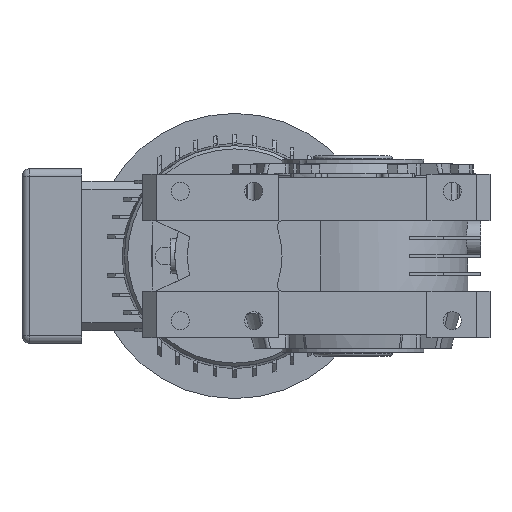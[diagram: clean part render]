
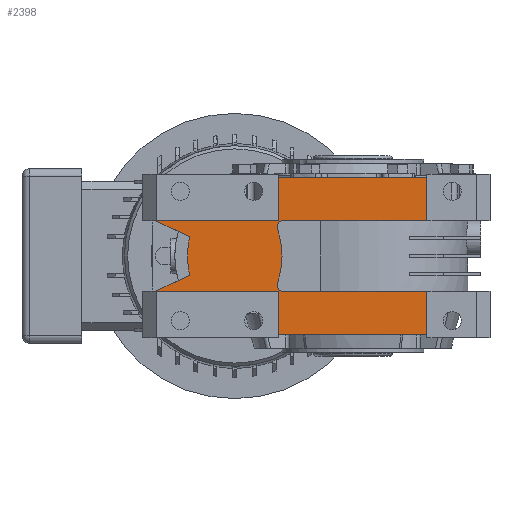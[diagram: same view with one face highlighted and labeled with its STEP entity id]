
A CAD part, left-side view. The second image highlights one B-rep face of the part: STEP entity #2398.
In plain terms, the highlighted planar face has unit normal (-1, 0, 0).
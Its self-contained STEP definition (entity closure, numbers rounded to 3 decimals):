
#2398 = ADVANCED_FACE( '', ( #5684 ), #5685, .T. );
#5684 = FACE_OUTER_BOUND( '', #9936, .T. );
#5685 = PLANE( '', #9937 );
#9936 = EDGE_LOOP( '', ( #17358, #17359, #17360, #17361, #17362, #17363, #17364, #17365, #17366, #17367, #17368, #17369, #17370, #17371, #17372, #17373, #17374, #17375 ) );
#9937 = AXIS2_PLACEMENT_3D( '', #17376, #17377, #17378 );
#17358 = ORIENTED_EDGE( '', *, *, #27639, .T. );
#17359 = ORIENTED_EDGE( '', *, *, #27640, .T. );
#17360 = ORIENTED_EDGE( '', *, *, #27641, .T. );
#17361 = ORIENTED_EDGE( '', *, *, #27610, .T. );
#17362 = ORIENTED_EDGE( '', *, *, #27642, .T. );
#17363 = ORIENTED_EDGE( '', *, *, #27643, .F. );
#17364 = ORIENTED_EDGE( '', *, *, #25774, .T. );
#17365 = ORIENTED_EDGE( '', *, *, #27488, .F. );
#17366 = ORIENTED_EDGE( '', *, *, #27644, .T. );
#17367 = ORIENTED_EDGE( '', *, *, #27645, .T. );
#17368 = ORIENTED_EDGE( '', *, *, #27325, .F. );
#17369 = ORIENTED_EDGE( '', *, *, #27646, .T. );
#17370 = ORIENTED_EDGE( '', *, *, #26884, .T. );
#17371 = ORIENTED_EDGE( '', *, *, #27647, .T. );
#17372 = ORIENTED_EDGE( '', *, *, #25635, .F. );
#17373 = ORIENTED_EDGE( '', *, *, #27648, .F. );
#17374 = ORIENTED_EDGE( '', *, *, #27649, .T. );
#17375 = ORIENTED_EDGE( '', *, *, #27650, .F. );
#17376 = CARTESIAN_POINT( '', ( -86., 58., 0. ) );
#17377 = DIRECTION( '', ( -1., 0., 0. ) );
#17378 = DIRECTION( '', ( 0., 0., -1. ) );
#25635 = EDGE_CURVE( '', #30874, #30876, #30877, .T. );
#25774 = EDGE_CURVE( '', #31118, #31115, #31119, .T. );
#26884 = EDGE_CURVE( '', #32963, #32961, #32964, .T. );
#27325 = EDGE_CURVE( '', #33658, #33660, #33661, .T. );
#27488 = EDGE_CURVE( '', #33902, #31115, #33904, .T. );
#27610 = EDGE_CURVE( '', #34074, #34072, #34075, .T. );
#27639 = EDGE_CURVE( '', #34113, #34114, #34115, .T. );
#27640 = EDGE_CURVE( '', #34114, #34116, #34117, .T. );
#27641 = EDGE_CURVE( '', #34116, #34074, #34118, .T. );
#27642 = EDGE_CURVE( '', #34072, #34119, #34120, .T. );
#27643 = EDGE_CURVE( '', #31118, #34119, #34121, .T. );
#27644 = EDGE_CURVE( '', #33902, #34122, #34123, .T. );
#27645 = EDGE_CURVE( '', #34122, #33660, #34124, .T. );
#27646 = EDGE_CURVE( '', #33658, #32963, #34125, .T. );
#27647 = EDGE_CURVE( '', #32961, #30876, #34126, .T. );
#27648 = EDGE_CURVE( '', #34127, #30874, #34128, .T. );
#27649 = EDGE_CURVE( '', #34127, #34129, #34130, .T. );
#27650 = EDGE_CURVE( '', #34113, #34129, #34131, .T. );
#30874 = VERTEX_POINT( '', #38739 );
#30876 = VERTEX_POINT( '', #38742 );
#30877 = LINE( '', #38743, #38744 );
#31115 = VERTEX_POINT( '', #39069 );
#31118 = VERTEX_POINT( '', #39073 );
#31119 = LINE( '', #39074, #39075 );
#32961 = VERTEX_POINT( '', #41642 );
#32963 = VERTEX_POINT( '', #41645 );
#32964 = LINE( '', #41646, #41647 );
#33658 = VERTEX_POINT( '', #42705 );
#33660 = VERTEX_POINT( '', #42708 );
#33661 = LINE( '', #42709, #42710 );
#33902 = VERTEX_POINT( '', #43070 );
#33904 = LINE( '', #43073, #43074 );
#34072 = VERTEX_POINT( '', #43377 );
#34074 = VERTEX_POINT( '', #43380 );
#34075 = CIRCLE( '', #43381, 4. );
#34113 = VERTEX_POINT( '', #43433 );
#34114 = VERTEX_POINT( '', #43434 );
#34115 = LINE( '', #43435, #43436 );
#34116 = VERTEX_POINT( '', #43437 );
#34117 = CIRCLE( '', #43438, 4. );
#34118 = CIRCLE( '', #43439, 55. );
#34119 = VERTEX_POINT( '', #43440 );
#34120 = LINE( '', #43441, #43442 );
#34121 = LINE( '', #43443, #43444 );
#34122 = VERTEX_POINT( '', #43445 );
#34123 = LINE( '', #43446, #43447 );
#34124 = LINE( '', #43448, #43449 );
#34125 = CIRCLE( '', #43450, 55. );
#34126 = LINE( '', #43451, #43452 );
#34127 = VERTEX_POINT( '', #43453 );
#34128 = LINE( '', #43454, #43455 );
#34129 = VERTEX_POINT( '', #43456 );
#34130 = LINE( '', #43457, #43458 );
#34131 = LINE( '', #43459, #43460 );
#38739 = CARTESIAN_POINT( '', ( -86., 47., -22.5 ) );
#38742 = CARTESIAN_POINT( '', ( -86., 124.5, -22.5 ) );
#38743 = CARTESIAN_POINT( '', ( -86., 58., -22.5 ) );
#38744 = VECTOR( '', #48459, 1000. );
#39069 = CARTESIAN_POINT( '', ( -86., 47., 50. ) );
#39073 = CARTESIAN_POINT( '', ( -86., -47., 50. ) );
#39074 = CARTESIAN_POINT( '', ( -86., 47., 50. ) );
#39075 = VECTOR( '', #48632, 1000. );
#41642 = CARTESIAN_POINT( '', ( -86., 124.5, -22. ) );
#41645 = CARTESIAN_POINT( '', ( -86., 103.616, -12.262 ) );
#41646 = CARTESIAN_POINT( '', ( -86., 125.572, -22.5 ) );
#41647 = VECTOR( '', #50034, 1000. );
#42705 = CARTESIAN_POINT( '', ( -86., 103.616, 12.262 ) );
#42708 = CARTESIAN_POINT( '', ( -86., 124.5, 22. ) );
#42709 = CARTESIAN_POINT( '', ( -86., 125.572, 22.5 ) );
#42710 = VECTOR( '', #50546, 1000. );
#43070 = CARTESIAN_POINT( '', ( -86., 47., 22.5 ) );
#43073 = CARTESIAN_POINT( '', ( -86., 47., 52. ) );
#43074 = VECTOR( '', #50722, 1000. );
#43377 = CARTESIAN_POINT( '', ( -86., 43.975, 22.5 ) );
#43380 = CARTESIAN_POINT( '', ( -86., 47.774, 17.246 ) );
#43381 = AXIS2_PLACEMENT_3D( '', #50854, #50855, #50856 );
#43433 = CARTESIAN_POINT( '', ( -86., -47., -22.5 ) );
#43434 = CARTESIAN_POINT( '', ( -86., 43.975, -22.5 ) );
#43435 = CARTESIAN_POINT( '', ( -86., -87., -22.5 ) );
#43436 = VECTOR( '', #50889, 1000. );
#43437 = CARTESIAN_POINT( '', ( -86., 47.774, -17.246 ) );
#43438 = AXIS2_PLACEMENT_3D( '', #50890, #50891, #50892 );
#43439 = AXIS2_PLACEMENT_3D( '', #50893, #50894, #50895 );
#43440 = CARTESIAN_POINT( '', ( -86., -47., 22.5 ) );
#43441 = CARTESIAN_POINT( '', ( -86., 133.5, 22.5 ) );
#43442 = VECTOR( '', #50896, 1000. );
#43443 = CARTESIAN_POINT( '', ( -86., -47., 52. ) );
#43444 = VECTOR( '', #50897, 1000. );
#43445 = CARTESIAN_POINT( '', ( -86., 124.5, 22.5 ) );
#43446 = CARTESIAN_POINT( '', ( -86., 58., 22.5 ) );
#43447 = VECTOR( '', #50898, 1000. );
#43448 = CARTESIAN_POINT( '', ( -86., 124.5, 0. ) );
#43449 = VECTOR( '', #50899, 1000. );
#43450 = AXIS2_PLACEMENT_3D( '', #50900, #50901, #50902 );
#43451 = CARTESIAN_POINT( '', ( -86., 124.5, 0. ) );
#43452 = VECTOR( '', #50903, 1000. );
#43453 = CARTESIAN_POINT( '', ( -86., 47., -50. ) );
#43454 = CARTESIAN_POINT( '', ( -86., 47., -28. ) );
#43455 = VECTOR( '', #50904, 1000. );
#43456 = CARTESIAN_POINT( '', ( -86., -47., -50. ) );
#43457 = CARTESIAN_POINT( '', ( -86., 47., -50. ) );
#43458 = VECTOR( '', #50905, 1000. );
#43459 = CARTESIAN_POINT( '', ( -86., -47., 52. ) );
#43460 = VECTOR( '', #50906, 1000. );
#48459 = DIRECTION( '', ( 0., 1., 0. ) );
#48632 = DIRECTION( '', ( 0., 1., 0. ) );
#50034 = DIRECTION( '', ( 0., 0.906, -0.423 ) );
#50546 = DIRECTION( '', ( 0., 0.906, 0.423 ) );
#50722 = DIRECTION( '', ( 0., 0., 1. ) );
#50854 = CARTESIAN_POINT( '', ( -86., 43.975, 18.5 ) );
#50855 = DIRECTION( '', ( 1., 0., 0. ) );
#50856 = DIRECTION( '', ( 0., 1., 0. ) );
#50889 = DIRECTION( '', ( 0., 1., 0. ) );
#50890 = CARTESIAN_POINT( '', ( -86., 43.975, -18.5 ) );
#50891 = DIRECTION( '', ( 1., 0., 0. ) );
#50892 = DIRECTION( '', ( 0., 1., 0. ) );
#50893 = CARTESIAN_POINT( '', ( -86., 100., 0. ) );
#50894 = DIRECTION( '', ( -1., 0., 0. ) );
#50895 = DIRECTION( '', ( 0., 0., 1. ) );
#50896 = DIRECTION( '', ( 0., -1., 0. ) );
#50897 = DIRECTION( '', ( 0., 0., -1. ) );
#50898 = DIRECTION( '', ( 0., 1., 0. ) );
#50899 = DIRECTION( '', ( 0., 0., -1. ) );
#50900 = CARTESIAN_POINT( '', ( -86., 50., 0. ) );
#50901 = DIRECTION( '', ( -1., 0., 0. ) );
#50902 = DIRECTION( '', ( 0., -1., 0. ) );
#50903 = DIRECTION( '', ( 0., 0., -1. ) );
#50904 = DIRECTION( '', ( 0., 0., 1. ) );
#50905 = DIRECTION( '', ( 0., -1., 0. ) );
#50906 = DIRECTION( '', ( 0., 0., -1. ) );
